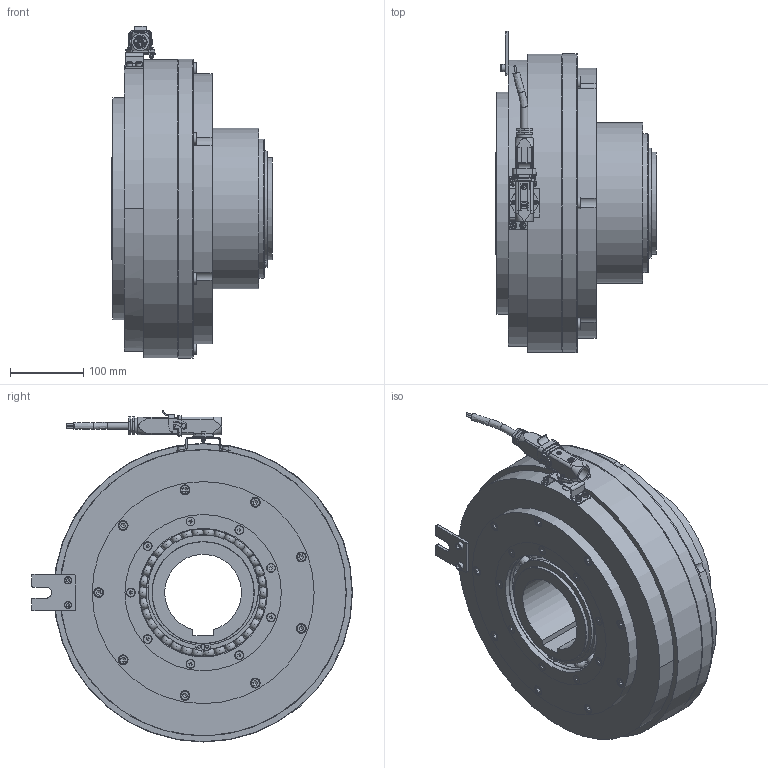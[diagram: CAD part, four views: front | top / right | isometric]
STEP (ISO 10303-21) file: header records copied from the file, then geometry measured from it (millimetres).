
FILE_DESCRIPTION(/* description */ (''),/* implementation_level */ '2;1');
FILE_NAME(/* name */ 'X:\INVENTOR\DISEGNI\08_Freni_Friz_Elettmag_Monodisco\08_26 EMSL_DF\EMSL_DF STEP\08_26_400_41 EMSL400_DF-R_S@STEP.stp',/* time_stamp */ '2018-04-24T09:55:17+02:00',/* author */ ('stefano'),/* organization */ (''),/* preprocessor_version */ 'ST-DEVELOPER v17',/* originating_system */ 'Autodesk Inventor 2018',/* authorisation */ '');
FILE_SCHEMA (('AUTOMOTIVE_DESIGN { 1 0 10303 214 3 1 1 }'));
Products named in the file (1): 08_26_400_41 EMSL400_DF-R - Spina_Substitute_1
Bounding box: 220 x 439.5 x 454.6 mm (x, y, z)
Volume: 13438811.5 mm3; surface area: 1655392.9 mm2
Topology: 2 solids, 2 shells, 2269 faces, 6827 edges, 4619 vertices
Faces by surface type: plane 1224, cylinder 630, torus 191, cone 132, sphere 71, bspline 21
Full cylindrical faces by diameter (mm): 0.35 x1, 0.491 x1, 0.753 x1, 0.95 x1, 0.986 x1, 1.05 x1, 2.5 x2, 3 x16, 3.2 x1, 3.25 x2, 3.59 x3, 4 x9, 4.675 x2, 4.8 x2, 5 x4, 5.25 x4, 5.5 x2, 6 x6, 6.2 x1, 7 x1, 7.9 x2, 8.2 x2, 8.376 x10, 8.5 x4, 9.5 x2, 10 x2, 10.106 x6, 11.34 x9, 12 x9, 13 x9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
Entity records: 92094 total; most frequent: CARTESIAN_POINT 28058, ORIENTED_EDGE 13294, DIRECTION 12637, EDGE_CURVE 6647, AXIS2_PLACEMENT_3D 4697, VERTEX_POINT 4619, LINE 3243, VECTOR 3243
